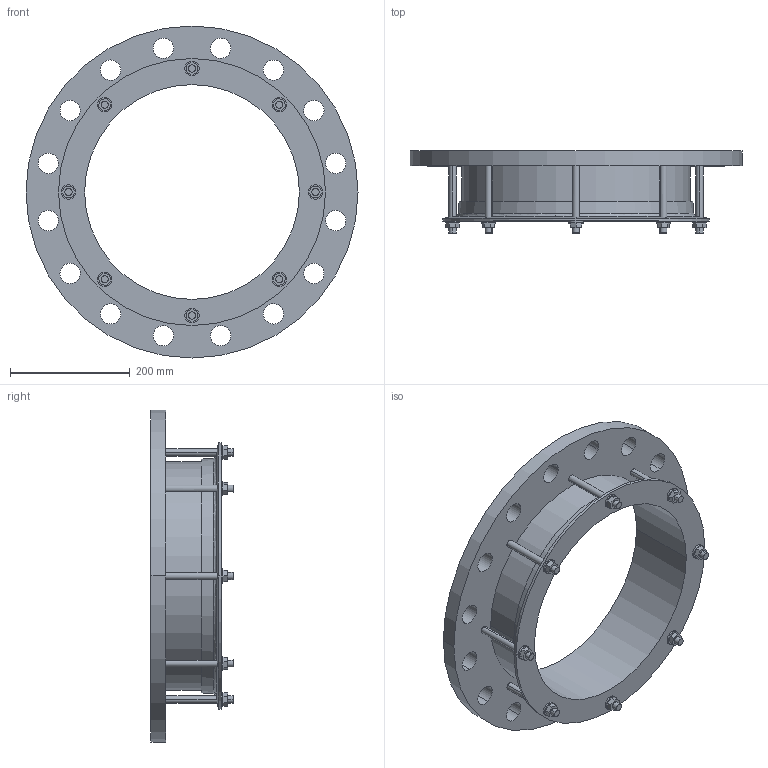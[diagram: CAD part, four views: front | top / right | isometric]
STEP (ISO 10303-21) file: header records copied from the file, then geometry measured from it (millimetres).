
FILE_DESCRIPTION((''),'2;1');
FILE_NAME('355X350PN25','2019-04-04T',('mfairey'),('Glynwed Pipe Systems'),'CREO PARAMETRIC BY PTC INC, 2016130','CREO PARAMETRIC BY PTC INC, 2016130','');
FILE_SCHEMA(('CONFIG_CONTROL_DESIGN'));
Length unit declared in the file: millimetre
Products named in the file (1): 355X350PN25
Bounding box: 555 x 137.45 x 555 mm (x, y, z)
Volume: 4922285.4 mm3; surface area: 693336.3 mm2
Topology: 1 solids, 1 shells, 170 faces, 446 edges, 296 vertices
Faces by surface type: cylinder 88, plane 76, cone 4, torus 2
Entity records: 5830 total; most frequent: CARTESIAN_POINT 1384, DIRECTION 924, ORIENTED_EDGE 892, EDGE_CURVE 446, AXIS2_PLACEMENT_3D 344, VERTEX_POINT 296, EDGE_LOOP 238, VECTOR 236
